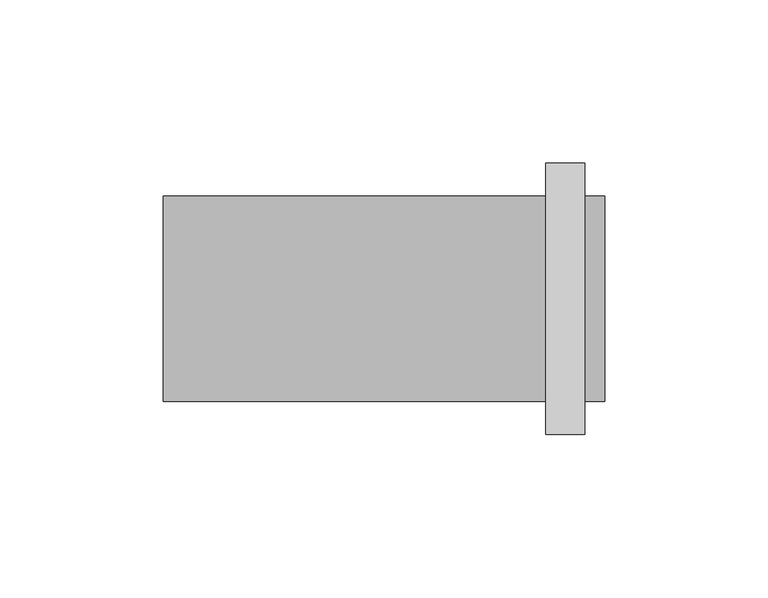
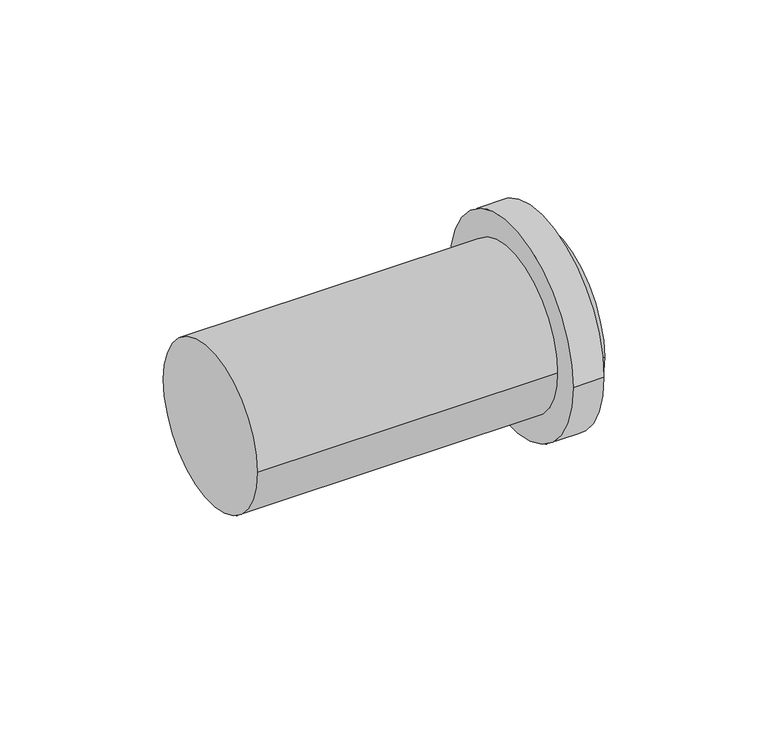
"""IFC4 building model written with IfcOpenShell, lengths in millimetres: pipe fitting geometry, pf_HT : pf_HT."""

from ifc_helpers import new_model, si_unit, point, frame, origin, origin_2d, place, context, project, spatial, circle_curve, trimmed, segment, composite_curve, outline, extrude, source, transform, mapped, element, save


def pipe_fitting_6e051af4(model_context):
    return source(origin(), model_context, "Body", "SweptSolid", [
        extrude(outline(composite_curve([segment(trimmed(circle_curve(origin_2d(), 41.5), [point((-41.5, 0.0))], [point((41.5, 0.0))], False, "CARTESIAN"), True, "CONTINUOUS"), segment(trimmed(circle_curve(origin_2d(), 41.5), [point((41.5, 0.0))], [point((-41.5, 0.0))], False, "CARTESIAN"), True, "CONTINUOUS")], self_intersect=False)), frame((49.5, 0.0, 0.0), z_axis=(1.0, 0.0, 0.0), x_axis=(0.0, 1.0, 0.0)), (0.0, 0.0, 1.0), 12.0),
        extrude(outline(composite_curve([segment(trimmed(circle_curve(origin_2d(), 31.5), [point((-31.5, 0.0))], [point((31.5, 0.0))], False, "CARTESIAN"), True, "CONTINUOUS"), segment(trimmed(circle_curve(origin_2d(), 31.5), [point((31.5, 0.0))], [point((-31.5, 0.0))], False, "CARTESIAN"), True, "CONTINUOUS")], self_intersect=False)), frame((-67.5, 0.0, 0.0), z_axis=(1.0, 0.0, 0.0), x_axis=(0.0, 1.0, 0.0)), (0.0, 0.0, 1.0), 135.0),
    ])


if __name__ == "__main__":
    model = new_model("IFC4")
    model_context = context("Model", 3, world=origin())
    ifc_project = project(units=[si_unit("LENGTHUNIT", "METRE", prefix="MILLI")], contexts=[model_context])
    site = spatial("IfcSite", under=ifc_project)
    building = spatial("IfcBuilding", under=site)
    placement = place(None, origin())
    pipe_fitting_shape = pipe_fitting_6e051af4(model_context)
    element("IfcPipeFitting", 1, ObjectType="pf_HT : pf_HT", at=placement, inside=building, context=model_context, shape_type="MappedRepresentation", body=[
        mapped(pipe_fitting_shape, transform((0.0, 0.0, 0.0), x_axis=(1.0, 0.0, 0.0), y_axis=(0.0, 1.0, 0.0), z_axis=(0.0, 0.0, 1.0))),
    ])
    save(model, "model.ifc")
